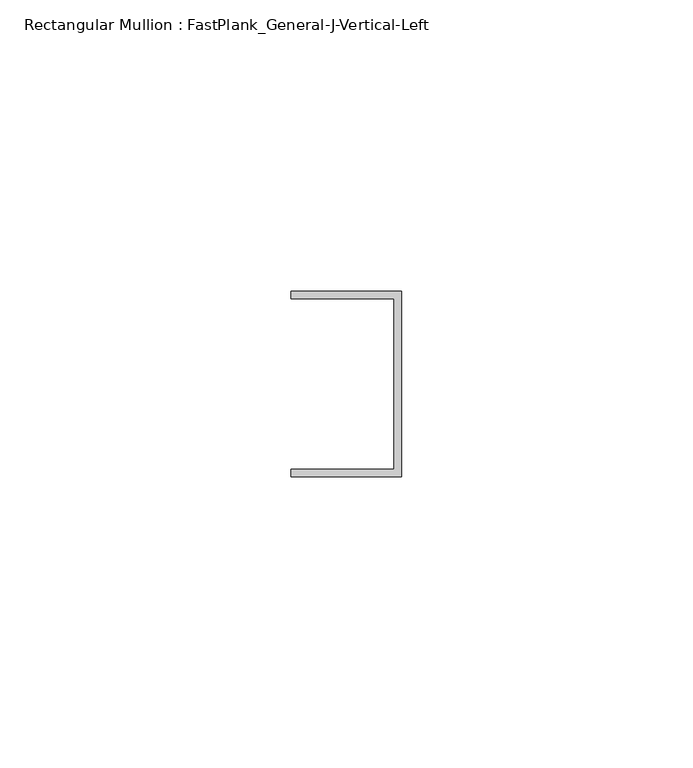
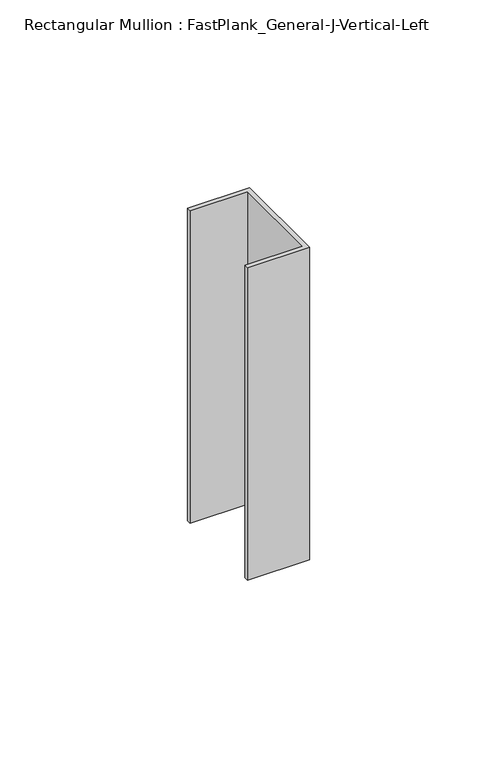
"""IFC4 building model written with IfcOpenShell, lengths in millimetres: member geometry, Rectangular Mullion : FastPlank_General-J-Vertical-Left."""

import ifcopenshell
import ifcopenshell.guid

model = None  # the IFC model being written
_history = None  # IfcOwnerHistory: only IFC2X3 demands one
_inside = {}  # id of a spatial element -> (the spatial element, [elements in it])
_under = {}  # id of a project, library or spatial element -> (it, [spatial elements below it])
_declared = {}  # id of a project -> (the project, [libraries it declares])
_typed = {}  # id of a type object -> (the type object, [elements of that type])
_made_of = {}  # id of a material, layer set ... -> (it, [elements and type objects made of it])


def new_model(schema):
    """Start an empty IFC model of exactly this schema.

    Asked for "IFC4X3", IfcOpenShell would pick the latest addendum, in which some entities
    have other attributes; the version numbers below select the first issue.
    IFC2X3 requires an IfcOwnerHistory on every rooted entity: one is made here for all.
    """
    global model, _history
    if schema == "IFC4X3":
        model = ifcopenshell.file(schema_version=(4, 3, 0, 0))
    else:
        model = ifcopenshell.file(schema=schema)
    _inside.clear()
    _under.clear()
    _declared.clear()
    _typed.clear()
    _made_of.clear()
    _history = None
    if model.schema == "IFC2X3":
        org = make("IfcOrganization", Name="unknown")
        user = make(
            "IfcPersonAndOrganization",
            ThePerson=make("IfcPerson", FamilyName="unknown"),
            TheOrganization=org,
        )
        app = make(
            "IfcApplication",
            ApplicationDeveloper=org,
            Version="unknown",
            ApplicationFullName="unknown",
            ApplicationIdentifier="unknown",
        )
        _history = make(
            "IfcOwnerHistory",
            OwningUser=user,
            OwningApplication=app,
            ChangeAction="ADDED",
            CreationDate=0,
        )
    return model


def make(cls, **values):
    """One entity of the class cls with the attributes given. An attribute that is None is left unset."""
    return model.create_entity(
        cls, **{name: value for name, value in values.items() if value is not None}
    )


def rooted(cls, **values):
    """An entity with a GlobalId (a new one), such as an element, a storey or a relation."""
    return make(cls, GlobalId=ifcopenshell.guid.new(), OwnerHistory=_history, **values)


def si_unit(unit_type, name, prefix=None):
    """IfcSIUnit, for example si_unit("LENGTHUNIT", "METRE", prefix="MILLI")."""
    return make("IfcSIUnit", UnitType=unit_type, Prefix=prefix, Name=name)


def assignment(units):
    """IfcUnitAssignment: the units of a project."""
    return None if units is None else make("IfcUnitAssignment", Units=units)


def point(xyz):
    """IfcCartesianPoint."""
    return None if xyz is None else make("IfcCartesianPoint", Coordinates=xyz)


def direction(xyz):
    """IfcDirection."""
    return None if xyz is None else make("IfcDirection", DirectionRatios=xyz)


def frame(location, z_axis=None, x_axis=None):
    """IfcAxis2Placement3D, a coordinate frame: its origin and axes. An axis left out is left unset."""
    return make(
        "IfcAxis2Placement3D",
        Location=point(location),
        Axis=direction(z_axis),
        RefDirection=direction(x_axis),
    )


def origin():
    """The frame at (0, 0, 0) with its axes left unset."""
    return frame((0.0, 0.0, 0.0))


def place(relative_to, where):
    """IfcLocalPlacement: puts the frame where relative to a parent placement (None: the world)."""
    return make(
        "IfcLocalPlacement", PlacementRelTo=relative_to, RelativePlacement=where
    )


def context(
    kind, dimensions, precision=None, world=None, true_north=None, identifier=None
):
    """IfcGeometricRepresentationContext, for example the 3D "Model" context."""
    return make(
        "IfcGeometricRepresentationContext",
        ContextIdentifier=identifier,
        ContextType=kind,
        CoordinateSpaceDimension=dimensions,
        Precision=precision,
        WorldCoordinateSystem=world,
        TrueNorth=true_north,
    )


def project(units=None, contexts=None):
    """IfcProject with its units and contexts."""
    return rooted(
        "IfcProject",
        Name="project",
        RepresentationContexts=contexts,
        UnitsInContext=assignment(units),
    )


def spatial(cls, under=None, at=None, **own):
    """A site, building, storey or space (cls), placed at a placement, below another one or the project."""
    s = rooted(cls, ObjectPlacement=at, **own)
    if under is not None:
        _under.setdefault(under.id(), (under, []))[1].append(s)
    return s


def polyline(points):
    """IfcPolyline through the points."""
    return make("IfcPolyline", Points=[point(p) for p in points])


def outline(outer, holes=None, kind="AREA"):
    """IfcArbitraryClosedProfileDef: a profile drawn as a closed curve; with holes, ...WithVoids."""
    if holes is None:
        return make("IfcArbitraryClosedProfileDef", ProfileType=kind, OuterCurve=outer)
    return make(
        "IfcArbitraryProfileDefWithVoids",
        ProfileType=kind,
        OuterCurve=outer,
        InnerCurves=holes,
    )


def extrude(swept, where, along, depth):
    """IfcExtrudedAreaSolid: the profile swept, set in the frame where, extruded along a direction by depth."""
    return make(
        "IfcExtrudedAreaSolid",
        SweptArea=swept,
        Position=where,
        ExtrudedDirection=direction(along),
        Depth=depth,
    )


def shape(context_of_items, identifier, shape_type, items):
    """IfcShapeRepresentation: the items that make up one representation, for example the "Body"."""
    return make(
        "IfcShapeRepresentation",
        ContextOfItems=context_of_items,
        RepresentationIdentifier=identifier,
        RepresentationType=shape_type,
        Items=items,
    )


def source(mapping_origin, context_of_items, identifier, shape_type, items):
    """IfcRepresentationMap: a shape defined once, which mapped items show again and again."""
    return make(
        "IfcRepresentationMap",
        MappingOrigin=mapping_origin,
        MappedRepresentation=shape(context_of_items, identifier, shape_type, items),
    )


def transform(
    local_origin,
    x_axis=None,
    y_axis=None,
    z_axis=None,
    scale=None,
    scale2=None,
    scale3=None,
    uniform=True,
):
    """IfcCartesianTransformationOperator3D, or its non-uniform kind. x_axis, y_axis, z_axis: its Axis1, 2, 3."""
    if uniform:
        return make(
            "IfcCartesianTransformationOperator3D",
            Axis1=direction(x_axis),
            Axis2=direction(y_axis),
            LocalOrigin=point(local_origin),
            Scale=scale,
            Axis3=direction(z_axis),
        )
    return make(
        "IfcCartesianTransformationOperator3DnonUniform",
        Axis1=direction(x_axis),
        Axis2=direction(y_axis),
        LocalOrigin=point(local_origin),
        Scale=scale,
        Axis3=direction(z_axis),
        Scale2=scale2,
        Scale3=scale3,
    )


def mapped(mapping_source, mapping_target):
    """IfcMappedItem: shows the shape of a source again, moved by a transform."""
    return make(
        "IfcMappedItem", MappingSource=mapping_source, MappingTarget=mapping_target
    )


def made_of(thing, what):
    """Note that an element or type object is made of a material, layer set ...; save() writes the relation."""
    if what is not None:
        _made_of.setdefault(what.id(), (what, []))[1].append(thing)
    return thing


def element(
    cls,
    number,
    at=None,
    inside=None,
    cuts=None,
    type_object=None,
    material=None,
    context=None,
    identifier="Body",
    shape_type=None,
    held_by="IfcProductDefinitionShape",
    body=None,
    shapes=None,
    **own,
):
    """One element of the class cls, such as IfcWall. Its Tag is "e" and its number.

    at: its placement. inside: the storey or other place that contains it. cuts: it is an
    opening in that element (IfcRelVoidsElement). A single representation is given by context,
    identifier, shape_type and body (its items); several are given by shapes. held_by: the class
    of the entity that holds the representations. save() writes the other relations.
    """
    e = rooted(cls, Tag="e%d" % number, ObjectPlacement=at, **own)
    if body is not None:
        shapes = [shape(context, identifier, shape_type, body)]
    if shapes is not None:
        e.Representation = make(held_by, Representations=shapes)
    if inside is not None:
        _inside.setdefault(inside.id(), (inside, []))[1].append(e)
    if cuts is not None:
        rooted(
            "IfcRelVoidsElement", RelatingBuildingElement=cuts, RelatedOpeningElement=e
        )
    if type_object is not None:
        _typed.setdefault(type_object.id(), (type_object, []))[1].append(e)
    return made_of(e, material)


def aggregate(whole, parts):
    """IfcRelAggregates: a whole, such as a stair, and the parts it consists of."""
    return rooted("IfcRelAggregates", RelatingObject=whole, RelatedObjects=parts)


def save(model, path):
    """Write the relations noted so far, then the file.

    IfcRelAggregates (storeys below a building ...), IfcRelContainedInSpatialStructure (elements
    in a storey), IfcRelDefinesByType, IfcRelAssociatesMaterial and IfcRelDeclares: one each for
    every whole, place, type object, material and project.
    """
    for whole, parts in _under.values():
        aggregate(whole, parts)
    for where, things in _inside.values():
        rooted(
            "IfcRelContainedInSpatialStructure",
            RelatedElements=things,
            RelatingStructure=where,
        )
    for kind, things in _typed.values():
        rooted("IfcRelDefinesByType", RelatedObjects=things, RelatingType=kind)
    for what, things in _made_of.values():
        rooted("IfcRelAssociatesMaterial", RelatedObjects=things, RelatingMaterial=what)
    for by, libraries in _declared.values():
        rooted("IfcRelDeclares", RelatingContext=by, RelatedDefinitions=libraries)
    model.write(path)


def rectangular_mullion_fastplank_general_j_vertical_left_b64c980b(model_context):
    return source(origin(), model_context, "Body", "SweptSolid", [
        extrude(outline(polyline([(0.0, -10.2620691), (-19.05, -10.2620691), (-19.05, -8.9620717), (-1.3000189, -8.9620717), (-1.3000189, 20.3412717), (-19.05, 20.3412717), (-19.05, 21.6412691), (0.0, 21.6412691), (0.0, -10.2620691)])), frame((0.0, 0.0, -101.6), z_axis=(0.0, 0.0, 1.0), x_axis=(1.0, 0.0, 0.0)), (0.0, 0.0, 1.0), 101.6),
    ])


if __name__ == "__main__":
    model = new_model("IFC4")
    model_context = context("Model", 3, world=origin())
    ifc_project = project(units=[si_unit("LENGTHUNIT", "METRE", prefix="MILLI")], contexts=[model_context])
    site = spatial("IfcSite", under=ifc_project)
    building = spatial("IfcBuilding", under=site)
    placement = place(None, origin())
    rectangular_mullion_fastplank_general_j_vertical_left_shape = rectangular_mullion_fastplank_general_j_vertical_left_b64c980b(model_context)
    element("IfcMember", 1, ObjectType="Rectangular Mullion : FastPlank_General-J-Vertical-Left", at=placement, inside=building, context=model_context, shape_type="MappedRepresentation", body=[
        mapped(rectangular_mullion_fastplank_general_j_vertical_left_shape, transform((0.0, 0.0, 0.0), x_axis=(1.0, 0.0, 0.0), y_axis=(0.0, 1.0, 0.0), z_axis=(0.0, 0.0, 1.0))),
    ])
    save(model, "model.ifc")
